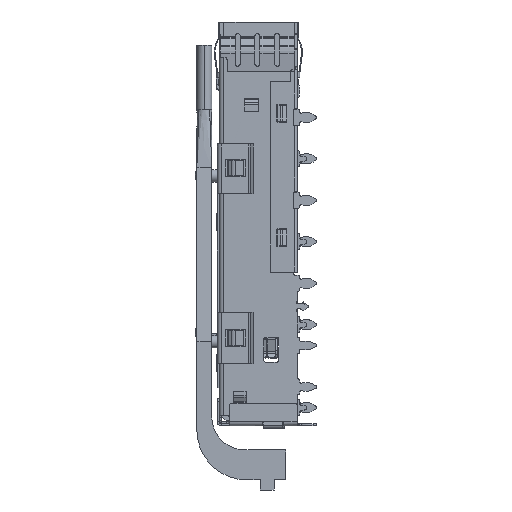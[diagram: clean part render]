
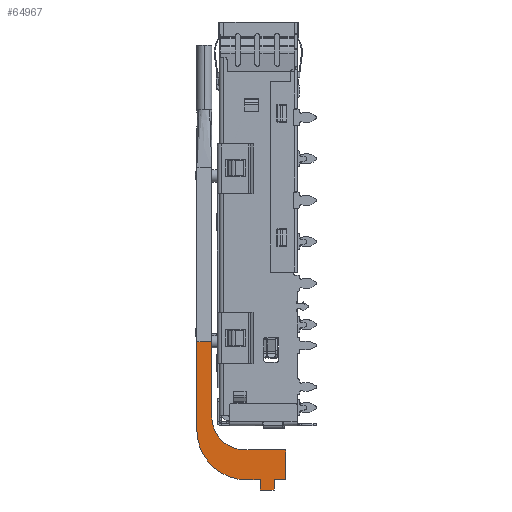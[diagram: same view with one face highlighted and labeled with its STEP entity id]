
A CAD part, left-side view. The second image highlights one B-rep face of the part: STEP entity #64967.
In plain terms, the highlighted planar face has unit normal (-1, 0, 0).
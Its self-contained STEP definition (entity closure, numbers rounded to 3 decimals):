
#18949=DIRECTION('',(0.,0.,-1.));
#18950=VECTOR('',#18949,10.65);
#18951=CARTESIAN_POINT('',(1.666,14.484,-38.55));
#18952=LINE('',#18951,#18950);
#19007=DIRECTION('',(0.,0.,1.));
#19008=VECTOR('',#19007,3.6);
#19009=CARTESIAN_POINT('',(1.666,3.751,-55.2));
#19010=LINE('',#19009,#19008);
#19019=DIRECTION('',(0.,1.,0.));
#19020=VECTOR('',#19019,1.418);
#19021=CARTESIAN_POINT('',(1.666,3.751,-55.2));
#19022=LINE('',#19021,#19020);
#19023=DIRECTION('',(0.,0.,-1.));
#19024=VECTOR('',#19023,1.23);
#19025=CARTESIAN_POINT('',(1.666,5.169,-55.2));
#19026=LINE('',#19025,#19024);
#19027=DIRECTION('',(0.,1.,0.));
#19028=VECTOR('',#19027,1.65);
#19029=CARTESIAN_POINT('',(1.666,5.169,-56.43));
#19030=LINE('',#19029,#19028);
#19031=DIRECTION('',(0.,0.,1.));
#19032=VECTOR('',#19031,1.23);
#19033=CARTESIAN_POINT('',(1.666,6.819,-56.43));
#19034=LINE('',#19033,#19032);
#19035=DIRECTION('',(0.,1.,0.));
#19036=VECTOR('',#19035,1.665);
#19037=CARTESIAN_POINT('',(1.666,6.819,-55.2));
#19038=LINE('',#19037,#19036);
#19039=CARTESIAN_POINT('',(1.666,8.484,-49.2));
#19040=DIRECTION('',(1.,0.,0.));
#19041=DIRECTION('',(0.,0.,-1.));
#19042=AXIS2_PLACEMENT_3D('',#19039,#19040,#19041);
#19044=DIRECTION('',(0.,-1.,0.));
#19045=VECTOR('',#19044,1.8);
#19046=CARTESIAN_POINT('',(1.666,14.484,-38.55));
#19047=LINE('',#19046,#19045);
#19048=CARTESIAN_POINT('',(1.666,8.684,-47.6));
#19049=DIRECTION('',(-1.,0.,0.));
#19050=DIRECTION('',(0.,1.,0.));
#19051=AXIS2_PLACEMENT_3D('',#19048,#19049,#19050);
#19053=DIRECTION('',(0.,-1.,0.));
#19054=VECTOR('',#19053,4.933);
#19055=CARTESIAN_POINT('',(1.666,8.684,-51.6));
#19056=LINE('',#19055,#19054);
#19201=DIRECTION('',(0.,0.,1.));
#19202=VECTOR('',#19201,9.05);
#19203=CARTESIAN_POINT('',(1.666,12.684,
-47.6));
#19204=LINE('',#19203,#19202);
#29790=CARTESIAN_POINT('',(1.666,14.484,-38.55));
#29791=VERTEX_POINT('',#29790);
#29792=CARTESIAN_POINT('',(1.666,14.484,
-49.2));
#29793=VERTEX_POINT('',#29792);
#29822=CARTESIAN_POINT('',(1.666,3.751,-55.2));
#29823=CARTESIAN_POINT('',(1.666,3.751,-51.6));
#29824=VERTEX_POINT('',#29822);
#29825=VERTEX_POINT('',#29823);
#29826=CARTESIAN_POINT('',(1.666,5.169,-55.2));
#29827=VERTEX_POINT('',#29826);
#29828=CARTESIAN_POINT('',(1.666,5.169,-56.43));
#29829=VERTEX_POINT('',#29828);
#29830=CARTESIAN_POINT('',(1.666,6.819,-56.43));
#29831=VERTEX_POINT('',#29830);
#29832=CARTESIAN_POINT('',(1.666,6.819,-55.2));
#29833=VERTEX_POINT('',#29832);
#29834=CARTESIAN_POINT('',(1.666,8.484,-55.2));
#29835=VERTEX_POINT('',#29834);
#29836=CARTESIAN_POINT('',(1.666,12.684,-38.55));
#29837=VERTEX_POINT('',#29836);
#29838=CARTESIAN_POINT('',(1.666,12.684,
-47.6));
#29839=VERTEX_POINT('',#29838);
#29840=CARTESIAN_POINT('',(1.666,8.684,-51.6));
#29841=VERTEX_POINT('',#29840);
#64938=CARTESIAN_POINT('',(1.666,9.118,-47.49));
#64939=DIRECTION('',(1.,0.,0.));
#64940=DIRECTION('',(0.,0.,-1.));
#64941=AXIS2_PLACEMENT_3D('',#64938,#64939,#64940);
#64942=PLANE('',#64941);
#64943=ORIENTED_EDGE('',*,*,#64921,.F.);
#64945=ORIENTED_EDGE('',*,*,#64944,.T.);
#64947=ORIENTED_EDGE('',*,*,#64946,.T.);
#64949=ORIENTED_EDGE('',*,*,#64948,.T.);
#64951=ORIENTED_EDGE('',*,*,#64950,.T.);
#64953=ORIENTED_EDGE('',*,*,#64952,.T.);
#64955=ORIENTED_EDGE('',*,*,#64954,.T.);
#64956=ORIENTED_EDGE('',*,*,#64851,.F.);
#64958=ORIENTED_EDGE('',*,*,#64957,.T.);
#64960=ORIENTED_EDGE('',*,*,#64959,.F.);
#64962=ORIENTED_EDGE('',*,*,#64961,.T.);
#64964=ORIENTED_EDGE('',*,*,#64963,.T.);
#64965=EDGE_LOOP('',(#64943,#64945,#64947,#64949,#64951,#64953,#64955,#64956,
#64958,#64960,#64962,#64964));
#64966=FACE_OUTER_BOUND('',#64965,.F.);
#19043=CIRCLE('',#19042,6.);
#19052=CIRCLE('',#19051,4.);
#64851=EDGE_CURVE('',#29791,#29793,#18952,.T.);
#64921=EDGE_CURVE('',#29824,#29825,#19010,.T.);
#64944=EDGE_CURVE('',#29824,#29827,#19022,.T.);
#64946=EDGE_CURVE('',#29827,#29829,#19026,.T.);
#64948=EDGE_CURVE('',#29829,#29831,#19030,.T.);
#64950=EDGE_CURVE('',#29831,#29833,#19034,.T.);
#64952=EDGE_CURVE('',#29833,#29835,#19038,.T.);
#64954=EDGE_CURVE('',#29835,#29793,#19043,.T.);
#64957=EDGE_CURVE('',#29791,#29837,#19047,.T.);
#64959=EDGE_CURVE('',#29839,#29837,#19204,.T.);
#64961=EDGE_CURVE('',#29839,#29841,#19052,.T.);
#64963=EDGE_CURVE('',#29841,#29825,#19056,.T.);
#64967=ADVANCED_FACE('',(#64966),#64942,.F.);
